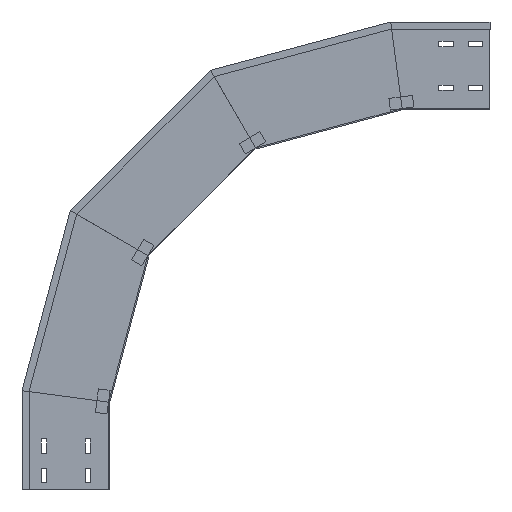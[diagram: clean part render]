
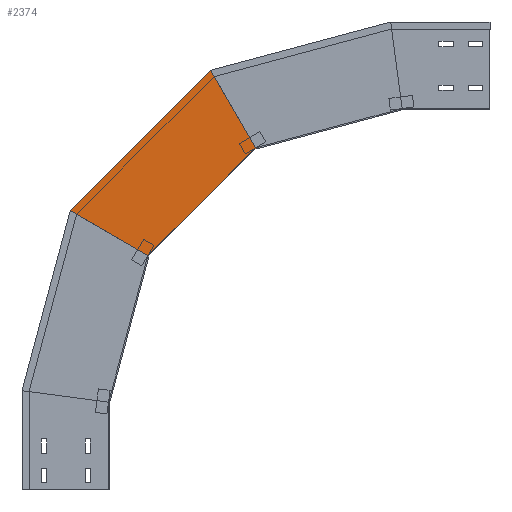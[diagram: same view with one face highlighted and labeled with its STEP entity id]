
A CAD part, left-side view. The second image highlights one B-rep face of the part: STEP entity #2374.
In plain terms, the highlighted planar face has unit normal (-1, 0, 0) as drawn and (1, 0, 0) by its records, which use the part's own axes.
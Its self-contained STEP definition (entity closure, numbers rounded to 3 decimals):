
#59 = VECTOR ( 'NONE', #787, 1000. ) ;
#99 = EDGE_CURVE ( 'NONE', #738, #1464, #2362, .T. ) ;
#253 = CARTESIAN_POINT ( 'NONE',  ( 0., -67.034, 400.175 ) ) ;
#375 = CARTESIAN_POINT ( 'NONE',  ( 0., -289.426, 515.33 ) ) ;
#402 = AXIS2_PLACEMENT_3D ( 'NONE', #1518, #972, #2267 ) ;
#474 = EDGE_CURVE ( 'NONE', #738, #815, #1999, .T. ) ;
#552 = ORIENTED_EDGE ( 'NONE', *, *, #474, .F. ) ;
#570 = VECTOR ( 'NONE', #861, 1000. ) ;
#643 = LINE ( 'NONE', #1385, #1115 ) ;
#704 = CARTESIAN_POINT ( 'NONE',  ( 0., -250.175, 583.315 ) ) ;
#738 = VERTEX_POINT ( 'NONE', #1344 ) ;
#771 = PLANE ( 'NONE',  #402 ) ;
#787 = DIRECTION ( 'NONE',  ( 0., -0.5, -0.866 ) ) ;
#815 = VERTEX_POINT ( 'NONE', #253 ) ;
#861 = DIRECTION ( 'NONE',  ( 0., -0.866, -0.5 ) ) ;
#881 = VERTEX_POINT ( 'NONE', #704 ) ;
#972 = DIRECTION ( 'NONE',  ( 1., 0., 0. ) ) ;
#1115 = VECTOR ( 'NONE', #1798, 1000. ) ;
#1267 = EDGE_CURVE ( 'NONE', #815, #881, #643, .T. ) ;
#1344 = CARTESIAN_POINT ( 'NONE',  ( 0., 67.452, 477.821 ) ) ;
#1385 = CARTESIAN_POINT ( 'NONE',  ( 0., -35.701, 368.842 ) ) ;
#1415 = EDGE_LOOP ( 'NONE', ( #2238, #2222, #2119, #552 ) ) ;
#1464 = VERTEX_POINT ( 'NONE', #2072 ) ;
#1500 = EDGE_CURVE ( 'NONE', #1464, #881, #1735, .T. ) ;
#1518 = CARTESIAN_POINT ( 'NONE',  ( 0., -35.701, 368.842 ) ) ;
#1735 = LINE ( 'NONE', #375, #59 ) ;
#1776 = VECTOR ( 'NONE', #2213, 1000. ) ;
#1798 = DIRECTION ( 'NONE',  ( 0., -0.707, 0.707 ) ) ;
#1999 = LINE ( 'NONE', #2359, #570 ) ;
#2045 = CARTESIAN_POINT ( 'NONE',  ( 0., 70.365, 474.908 ) ) ;
#2065 = FACE_OUTER_BOUND ( 'NONE', #1415, .T. ) ;
#2072 = CARTESIAN_POINT ( 'NONE',  ( 0., -172.529, 717.802 ) ) ;
#2119 = ORIENTED_EDGE ( 'NONE', *, *, #1267, .F. ) ;
#2213 = DIRECTION ( 'NONE',  ( 0., -0.707, 0.707 ) ) ;
#2222 = ORIENTED_EDGE ( 'NONE', *, *, #1500, .T. ) ;
#2238 = ORIENTED_EDGE ( 'NONE', *, *, #99, .T. ) ;
#2267 = DIRECTION ( 'NONE',  ( 0., 0., -1. ) ) ;
#2359 = CARTESIAN_POINT ( 'NONE',  ( 0., -129.979, 363.834 ) ) ;
#2362 = LINE ( 'NONE', #2045, #1776 ) ;
#2374 = ADVANCED_FACE ( 'NONE', ( #2065 ), #771, .T. ) ;
